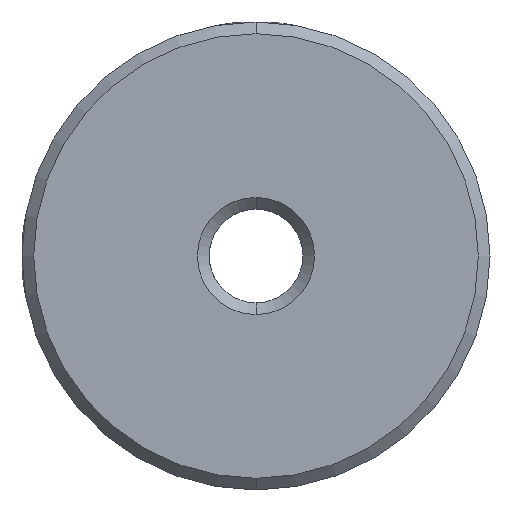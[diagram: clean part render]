
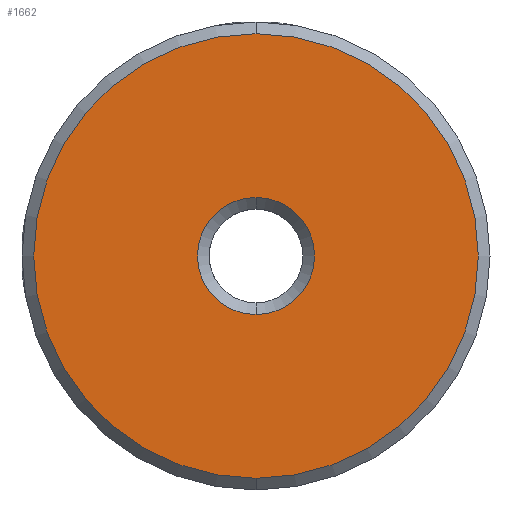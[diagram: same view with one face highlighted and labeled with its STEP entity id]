
A CAD part, front view. The second image highlights one B-rep face of the part: STEP entity #1662.
In plain terms, the highlighted planar face has unit normal (0, -1, 0).
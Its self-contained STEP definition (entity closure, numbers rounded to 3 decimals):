
#45 = ORIENTED_EDGE ( 'NONE', *, *, #1960, .T. ) ;
#81 = CARTESIAN_POINT ( 'NONE',  ( -10.188, -0.277, -9.454 ) ) ;
#106 = VERTEX_POINT ( 'NONE', #1917 ) ;
#147 = DIRECTION ( 'NONE',  ( 0., 0., 1. ) ) ;
#165 = EDGE_LOOP ( 'NONE', ( #45, #176 ) ) ;
#176 = ORIENTED_EDGE ( 'NONE', *, *, #2779, .T. ) ;
#284 = CARTESIAN_POINT ( 'NONE',  ( -10.188, -0.277, 9.546 ) ) ;
#318 = PLANE ( 'NONE',  #1152 ) ;
#457 = DIRECTION ( 'NONE',  ( 0., -1., 0. ) ) ;
#655 = DIRECTION ( 'NONE',  ( 0., 1., 0. ) ) ;
#685 = VERTEX_POINT ( 'NONE', #284 ) ;
#759 = CIRCLE ( 'NONE', #1160, 9.5 ) ;
#798 = ORIENTED_EDGE ( 'NONE', *, *, #1687, .T. ) ;
#892 = EDGE_LOOP ( 'NONE', ( #1464, #798 ) ) ;
#896 = FACE_BOUND ( 'NONE', #892, .T. ) ;
#1131 = FACE_OUTER_BOUND ( 'NONE', #165, .T. ) ;
#1152 = AXIS2_PLACEMENT_3D ( 'NONE', #3086, #2520, #1998 ) ;
#1160 = AXIS2_PLACEMENT_3D ( 'NONE', #1518, #457, #1846 ) ;
#1409 = CARTESIAN_POINT ( 'NONE',  ( -10.188, -0.277, -2.454 ) ) ;
#1464 = ORIENTED_EDGE ( 'NONE', *, *, #2595, .T. ) ;
#1518 = CARTESIAN_POINT ( 'NONE',  ( -10.188, -0.277, 0.046 ) ) ;
#1582 = CARTESIAN_POINT ( 'NONE',  ( -10.188, -0.277, 0.046 ) ) ;
#1607 = CIRCLE ( 'NONE', #3172, 2.5 ) ;
#1662 = ADVANCED_FACE ( 'NONE', ( #1131, #896 ), #318, .F. ) ;
#1687 = EDGE_CURVE ( 'NONE', #106, #1828, #1607, .T. ) ;
#1828 = VERTEX_POINT ( 'NONE', #1409 ) ;
#1846 = DIRECTION ( 'NONE',  ( 0., 0., 1. ) ) ;
#1868 = DIRECTION ( 'NONE',  ( 0., 1., 0. ) ) ;
#1917 = CARTESIAN_POINT ( 'NONE',  ( -10.188, -0.277, 2.546 ) ) ;
#1960 = EDGE_CURVE ( 'NONE', #685, #2405, #759, .T. ) ;
#1998 = DIRECTION ( 'NONE',  ( 0., 0., 1. ) ) ;
#2008 = DIRECTION ( 'NONE',  ( 0., 0., 1. ) ) ;
#2079 = CIRCLE ( 'NONE', #3300, 2.5 ) ;
#2405 = VERTEX_POINT ( 'NONE', #81 ) ;
#2520 = DIRECTION ( 'NONE',  ( 0., 1., 0. ) ) ;
#2595 = EDGE_CURVE ( 'NONE', #1828, #106, #2079, .T. ) ;
#2601 = CARTESIAN_POINT ( 'NONE',  ( -10.188, -0.277, 0.046 ) ) ;
#2665 = DIRECTION ( 'NONE',  ( 0., -1., 0. ) ) ;
#2684 = DIRECTION ( 'NONE',  ( 0., 0., 1. ) ) ;
#2779 = EDGE_CURVE ( 'NONE', #2405, #685, #3351, .T. ) ;
#3007 = AXIS2_PLACEMENT_3D ( 'NONE', #3464, #2665, #147 ) ;
#3086 = CARTESIAN_POINT ( 'NONE',  ( -10.188, -0.277, 0.046 ) ) ;
#3172 = AXIS2_PLACEMENT_3D ( 'NONE', #1582, #1868, #2684 ) ;
#3300 = AXIS2_PLACEMENT_3D ( 'NONE', #2601, #655, #2008 ) ;
#3351 = CIRCLE ( 'NONE', #3007, 9.5 ) ;
#3464 = CARTESIAN_POINT ( 'NONE',  ( -10.188, -0.277, 0.046 ) ) ;
